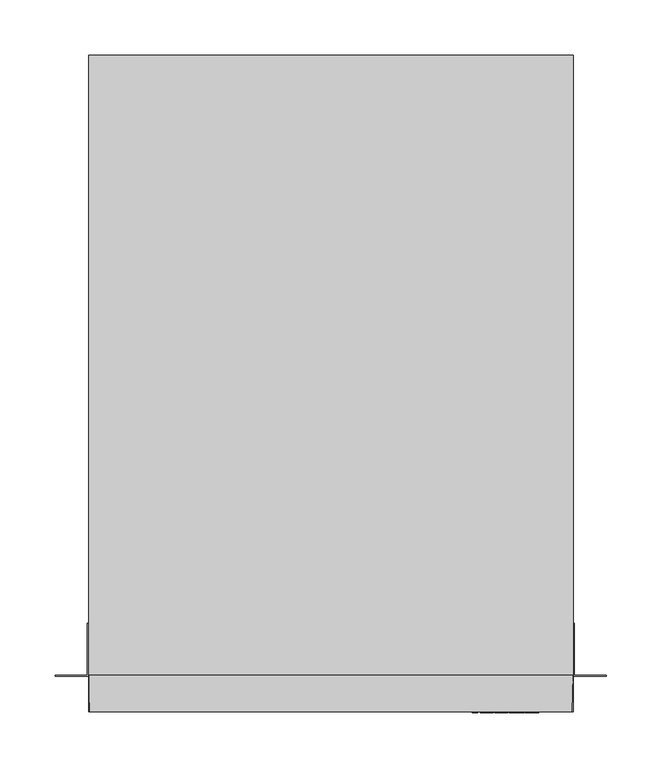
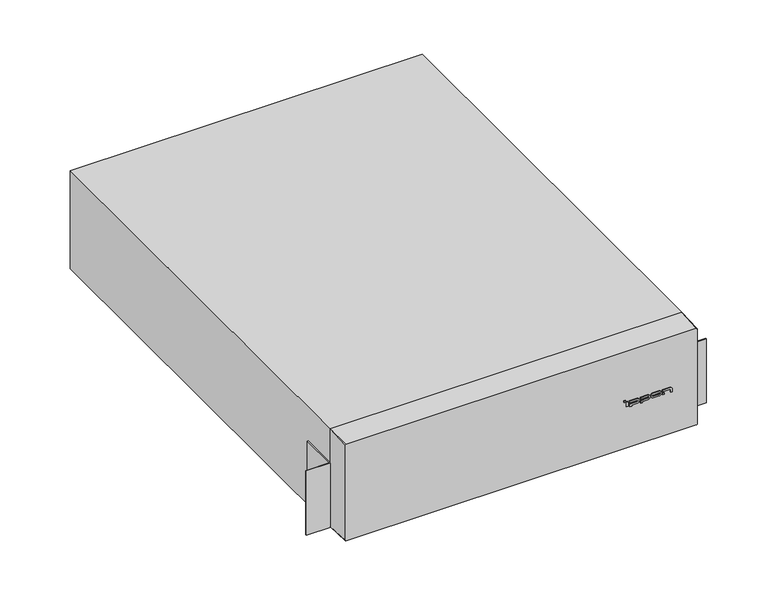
"""IFC4 building model written with IfcOpenShell, lengths in millimetres: proxy geometry, IPPON_EBM_Innova RT II_6000_10000ВА : Innova RT II 10000 ВА."""

from ifc_helpers import new_model, si_unit, point, frame, frame_2d, origin, place, context, project, spatial, polyline, circle_curve, trimmed, segment, composite_curve, outline, extrude, source, transform, mapped, element, save
from ifc_brep_helpers import plane_surface, spline_surface, advanced_brep


def electrical_equipment_7cbba243(model_context):
    return source(origin(), model_context, "Body", "SolidModel", [
        extrude(outline(polyline([(129.8281867, -1.0), (127.8281867, -1.0), (127.8281867, 0.0), (129.8281867, 0.0), (129.8281867, -1.0)])), frame((0.0, 0.0, 64.2), z_axis=(0.0, 0.0, 1.0), x_axis=(1.0, 0.0, 0.0)), (0.0, 0.0, 1.0), 2.3),
        extrude(outline(polyline([(177.6035474, -1.0), (175.6035474, -1.0), (175.6035474, 0.0), (177.6035474, 0.0), (177.6035474, -1.0)])), frame((0.0, 0.0, 58.2), z_axis=(0.0, 0.0, 1.0), x_axis=(1.0, 0.0, 0.0)), (0.0, 0.0, 1.0), 2.2268231),
        extrude(outline(polyline([(132.561435, -1.0), (130.5166676, -1.0), (130.5166676, 0.0), (132.561435, 0.0), (132.561435, -1.0)])), frame((0.0, 0.0, 58.2), z_axis=(0.0, 0.0, 1.0), x_axis=(1.0, 0.0, 0.0)), (0.0, 0.0, 1.0), 6.0),
        extrude(outline(composite_curve([segment(polyline([(61.93756, 134.7758891), (61.93756, 144.0076464)]), True, "CONTINUOUS"), segment(trimmed(circle_curve(frame_2d((61.0810807, 144.0076464)), 0.8564793), [point((61.93756, 144.0076464))], [point((60.2246014, 144.0076464))], True, "CARTESIAN"), True, "CONTINUOUS"), segment(polyline([(60.2246014, 144.0076464), (60.2246014, 134.7758891), (56.7340968, 134.7758891), (56.7340968, 136.7758891), (58.2, 136.7758891), (58.2, 143.8513964)]), True, "CONTINUOUS"), segment(trimmed(circle_curve(frame_2d((61.2, 143.8513964)), 3.0), [point((58.2, 143.8513964))], [point((64.2, 143.8513964))], False, "CARTESIAN"), True, "CONTINUOUS"), segment(polyline([(64.2, 143.8513964), (64.2, 134.7758891), (61.93756, 134.7758891)]), True, "CONTINUOUS")], self_intersect=False)), frame((0.0, -1.0, 0.0), z_axis=(0.0, 1.0, 0.0), x_axis=(0.0, 0.0, 1.0)), (0.0, 0.0, 1.0), 1.0),
        extrude(outline(composite_curve([segment(polyline([(61.93756, 147.9828909), (61.93756, 157.2146482)]), True, "CONTINUOUS"), segment(trimmed(circle_curve(frame_2d((61.0810807, 157.2146482)), 0.8564793), [point((61.93756, 157.2146482))], [point((60.2246014, 157.2146482))], True, "CARTESIAN"), True, "CONTINUOUS"), segment(polyline([(60.2246014, 157.2146482), (60.2246014, 147.9828909), (56.7340968, 147.9828909), (56.7340968, 149.9828909), (58.2, 149.9828909), (58.2, 157.0583982)]), True, "CONTINUOUS"), segment(trimmed(circle_curve(frame_2d((61.2, 157.0583982)), 3.0), [point((58.2, 157.0583982))], [point((64.2, 157.0583982))], False, "CARTESIAN"), True, "CONTINUOUS"), segment(polyline([(64.2, 157.0583982), (64.2, 147.9828909), (61.93756, 147.9828909)]), True, "CONTINUOUS")], self_intersect=False)), frame((0.0, -1.0, 0.0), z_axis=(0.0, 1.0, 0.0), x_axis=(0.0, 0.0, 1.0)), (0.0, 0.0, 1.0), 1.0),
        extrude(outline(composite_curve([segment(trimmed(circle_curve(frame_2d((61.2, 171.558657)), 3.0), [point((58.2, 171.558657))], [point((64.2, 171.558657))], False, "CARTESIAN"), True, "CONTINUOUS"), segment(polyline([(64.2, 171.558657), (64.2, 163.958657)]), True, "CONTINUOUS"), segment(trimmed(circle_curve(frame_2d((61.2, 163.958657)), 3.0), [point((64.2, 163.958657))], [point((58.2, 163.958657))], False, "CARTESIAN"), True, "CONTINUOUS"), segment(polyline([(58.2, 163.958657), (58.2, 171.558657)]), True, "CONTINUOUS")], self_intersect=False), holes=[composite_curve([segment(polyline([(60.2246014, 171.714907), (60.2246014, 163.802407)]), True, "CONTINUOUS"), segment(trimmed(circle_curve(frame_2d((61.0810807, 163.802407)), 0.8564793), [point((60.2246014, 163.802407))], [point((61.93756, 163.802407))], True, "CARTESIAN"), True, "CONTINUOUS"), segment(polyline([(61.93756, 163.802407), (61.93756, 171.714907)]), True, "CONTINUOUS"), segment(trimmed(circle_curve(frame_2d((61.0810807, 171.714907)), 0.8564793), [point((61.93756, 171.714907))], [point((60.2246014, 171.714907))], True, "CARTESIAN"), True, "CONTINUOUS")], self_intersect=False)]), frame((0.0, -1.0, 0.0), z_axis=(0.0, 1.0, 0.0), x_axis=(0.0, 0.0, 1.0)), (0.0, 0.0, 1.0), 1.0),
        extrude(outline(composite_curve([segment(polyline([(61.93756, 175.6035474), (61.93756, 184.8353046)]), True, "CONTINUOUS"), segment(trimmed(circle_curve(frame_2d((61.0810807, 184.8353046)), 0.8564793), [point((61.93756, 184.8353046))], [point((61.0810807, 185.6917839))], True, "CARTESIAN"), True, "CONTINUOUS"), segment(polyline([(61.0810807, 185.6917839), (58.2, 185.6917839), (58.2, 187.6317921), (61.7304165, 187.6317921)]), True, "CONTINUOUS"), segment(trimmed(circle_curve(frame_2d((61.2, 184.6790546)), 3.0), [point((61.7304165, 187.6317921))], [point((64.2, 184.6790546))], False, "CARTESIAN"), True, "CONTINUOUS"), segment(polyline([(64.2, 184.6790546), (64.2, 175.6035474), (61.93756, 175.6035474)]), True, "CONTINUOUS")], self_intersect=False)), frame((0.0, -1.0, 0.0), z_axis=(0.0, 1.0, 0.0), x_axis=(0.0, 0.0, 1.0)), (0.0, 0.0, 1.0), 1.0),
        advanced_brep(
        [(219.0, 0.0, 129.0), (218.0, 0.0, 130.0), (-218.0, 0.0, 130.0), (-219.0, 0.0, 129.0), (-219.0, 0.0, 4.0), (-218.0, 0.0, 3.0), (218.0, 0.0, 3.0), (219.0, 0.0, 4.0), (219.0, 33.0, 131.0), (219.0, 33.0, 2.0), (-219.0, 33.0, 2.0), (-219.0, 33.0, 131.0)],
        [
            (0, 1, circle_curve(frame((218.0, 0.0, 129.0), z_axis=(0.0, -1.0, 0.0), x_axis=(1.0, 0.0, 0.0)), 1.0)),
            (1, 2),
            (2, 3, circle_curve(frame((-218.0, 0.0, 129.0), z_axis=(0.0, -1.0, 0.0), x_axis=(1.0, 0.0, 0.0)), 1.0)),
            (3, 4),
            (4, 5, circle_curve(frame((-218.0, 0.0, 4.0), z_axis=(0.0, -1.0, 0.0), x_axis=(1.0, 0.0, 0.0)), 1.0)),
            (5, 6),
            (6, 7, circle_curve(frame((218.0, 0.0, 4.0), z_axis=(0.0, -1.0, 0.0), x_axis=(1.0, 0.0, 0.0)), 1.0)),
            (7, 0),
            (8, 9),
            (9, 10),
            (10, 11),
            (11, 8),
            (0, 8),
            (8, 1),
            (11, 2),
            (11, 3),
            (10, 4),
            (10, 5),
            (9, 6),
            (9, 7),
        ],
        [
            plane_surface(frame((0.0, 0.0, 66.5), z_axis=(0.0, -1.0, 0.0), x_axis=(-1.0, 0.0, 0.0))),
            plane_surface(frame((0.0, 33.0, 66.5), z_axis=(0.0, 1.0, 0.0), x_axis=(-1.0, 0.0, 0.0))),
            spline_surface(2, 1, [[(219.0, 33.0, 131.0), (219.0, 0.0, 129.0)], [(219.0, 33.0, 131.0), (219.0, 0.0, 130.0)], [(219.0, 33.0, 131.0), (218.0, 0.0, 130.0)]], [3, 3], [2, 2], [0.0, 1.0], [0.0, 1.0], weights=[[1.0, 1.0], [0.7071067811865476, 0.7071067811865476], [1.0, 1.0]]),
            plane_surface(frame((0.0, 33.0, 131.0), z_axis=(0.0, -0.030289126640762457, 0.9995411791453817), x_axis=(-1.0, 0.0, 0.0))),
            spline_surface(2, 1, [[(-219.0, 33.0, 131.0), (-218.0, 0.0, 130.0)], [(-219.0, 33.0, 131.0), (-219.0, 0.0, 130.0)], [(-219.0, 33.0, 131.0), (-219.0, 0.0, 129.0)]], [3, 3], [2, 2], [0.0, 1.0], [0.0, 1.0], weights=[[1.0, 1.0], [0.7071067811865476, 0.7071067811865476], [1.0, 1.0]]),
            plane_surface(frame((-219.0, 33.0, 66.5), z_axis=(-1.0, 0.0, 0.0), x_axis=(0.0, 0.0, -1.0))),
            spline_surface(2, 1, [[(-219.0, 33.0, 2.0), (-219.0, 0.0, 4.0)], [(-219.0, 33.0, 2.0), (-219.0, 0.0, 3.0)], [(-219.0, 33.0, 2.0), (-218.0, 0.0, 3.0)]], [3, 3], [2, 2], [0.0, 1.0], [0.0, 1.0], weights=[[1.0, 1.0], [0.7071067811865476, 0.7071067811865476], [1.0, 1.0]]),
            plane_surface(frame((0.0, 33.0, 2.0), z_axis=(0.0, -0.030289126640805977, -0.9995411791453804), x_axis=(1.0, 0.0, 0.0))),
            spline_surface(2, 1, [[(219.0, 33.0, 2.0), (218.0, 0.0, 3.0)], [(219.0, 33.0, 2.0), (219.0, 0.0, 3.0)], [(219.0, 33.0, 2.0), (219.0, 0.0, 4.0)]], [3, 3], [2, 2], [0.0, 1.0], [0.0, 1.0], weights=[[1.0, 1.0], [0.7071067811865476, 0.7071067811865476], [1.0, 1.0]]),
            plane_surface(frame((219.0, 33.0, 66.5), z_axis=(1.0, 0.0, 0.0), x_axis=(0.0, 0.0, 1.0))),
        ],
        [
            (0, [[1, 2, 3, 4, 5, 6, 7, 8]]),
            (1, [[9, 10, 11, 12]]),
            (2, [[-1, 13, 14]]),
            (3, [[-12, 15, -2, -14]]),
            (4, [[-3, -15, 16]]),
            (5, [[-11, 17, -4, -16]]),
            (6, [[-5, -17, 18]]),
            (7, [[-10, 19, -6, -18]]),
            (8, [[-7, -19, 20]]),
            (9, [[-9, -13, -8, -20]]),
        ],
    ),
        extrude(outline(polyline([(219.0, 32.0), (219.0, 80.0), (220.0, 80.0), (220.0, 33.0), (249.0, 33.0), (249.0, 32.0), (219.0, 32.0)])), frame((0.0, 0.0, 2.0), z_axis=(0.0, 0.0, 1.0), x_axis=(1.0, 0.0, 0.0)), (0.0, 0.0, 1.0), 84.5),
        extrude(outline(polyline([(-219.0, 32.0), (-249.0, 32.0), (-249.0, 33.0), (-220.0, 33.0), (-220.0, 80.0), (-219.0, 80.0), (-219.0, 32.0)])), frame((0.0, 0.0, 2.0), z_axis=(0.0, 0.0, 1.0), x_axis=(1.0, 0.0, 0.0)), (0.0, 0.0, 1.0), 84.5),
        extrude(outline(polyline([(219.0, 33.0), (-219.0, 33.0), (-219.0, 593.0), (219.0, 593.0), (219.0, 33.0)])), frame((0.0, 0.0, 2.0), z_axis=(0.0, 0.0, 1.0), x_axis=(1.0, 0.0, 0.0)), (0.0, 0.0, 1.0), 129.0),
    ])


if __name__ == "__main__":
    model = new_model("IFC4")
    model_context = context("Model", 3, world=origin())
    ifc_project = project(units=[si_unit("LENGTHUNIT", "METRE", prefix="MILLI")], contexts=[model_context])
    site = spatial("IfcSite", under=ifc_project)
    building = spatial("IfcBuilding", under=site)
    placement = place(None, origin())
    electrical_equipment_shape = electrical_equipment_7cbba243(model_context)
    element("IfcBuildingElementProxy", 1, Name="IPPON_EBM_Innova RT II_6000_10000ВА : Innova RT II 10000 ВА", ObjectType="IPPON_EBM_Innova RT II_6000_10000ВА : Innova RT II 10000 ВА", at=placement, inside=building, context=model_context, shape_type="MappedRepresentation", body=[
        mapped(electrical_equipment_shape, transform((0.0, 0.0, 0.0), x_axis=(1.0, 0.0, 0.0), y_axis=(0.0, 1.0, 0.0), z_axis=(0.0, 0.0, 1.0))),
    ])
    save(model, "model.ifc")
